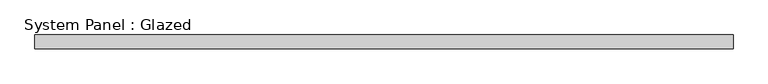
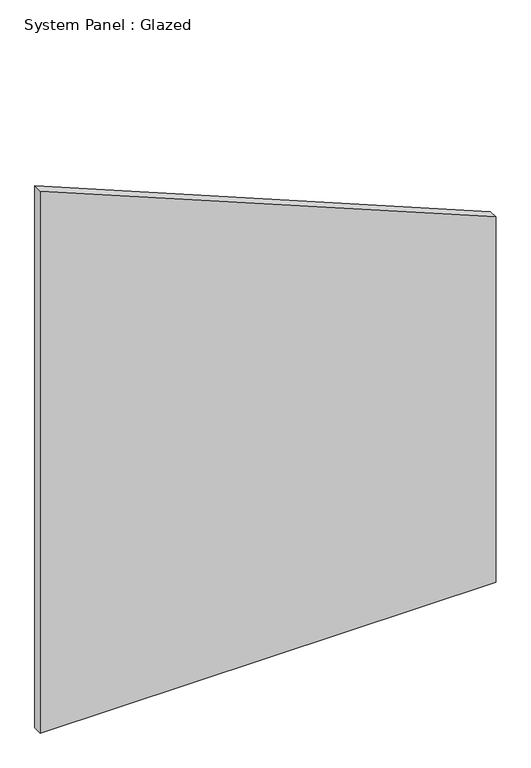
"""IFC4 building model written with IfcOpenShell, lengths in millimetres: plate geometry, System Panel : Glazed."""

from ifc_helpers import new_model, si_unit, frame, origin, place, context, project, spatial, polyline, outline, extrude, source, transform, mapped, element, save


def system_panel_glazed_729bb18e(model_context):
    return source(origin(), model_context, "Body", "SweptSolid", [
        extrude(outline(polyline([(0.0, -641.35), (0.0, 641.35), (1085.8554868, 641.35), (1611.4554665, -641.35), (0.0, -641.35)])), frame((0.0, 19.05, 0.0), z_axis=(0.0, 1.0, 0.0), x_axis=(0.0, 0.0, 1.0)), (0.0, 0.0, 1.0), 25.4),
    ])


if __name__ == "__main__":
    model = new_model("IFC4")
    model_context = context("Model", 3, world=origin())
    ifc_project = project(units=[si_unit("LENGTHUNIT", "METRE", prefix="MILLI")], contexts=[model_context])
    site = spatial("IfcSite", under=ifc_project)
    building = spatial("IfcBuilding", under=site)
    placement = place(None, origin())
    system_panel_glazed_shape = system_panel_glazed_729bb18e(model_context)
    element("IfcPlate", 1, ObjectType="System Panel : Glazed", at=placement, inside=building, context=model_context, shape_type="MappedRepresentation", body=[
        mapped(system_panel_glazed_shape, transform((0.0, 0.0, 0.0), x_axis=(1.0, 0.0, 0.0), y_axis=(0.0, 1.0, 0.0), z_axis=(0.0, 0.0, 1.0))),
    ])
    save(model, "model.ifc")
